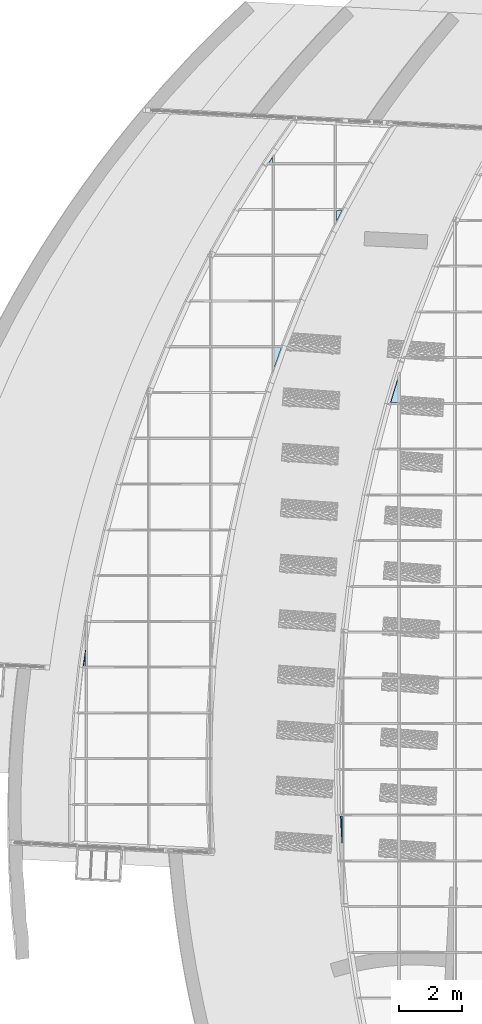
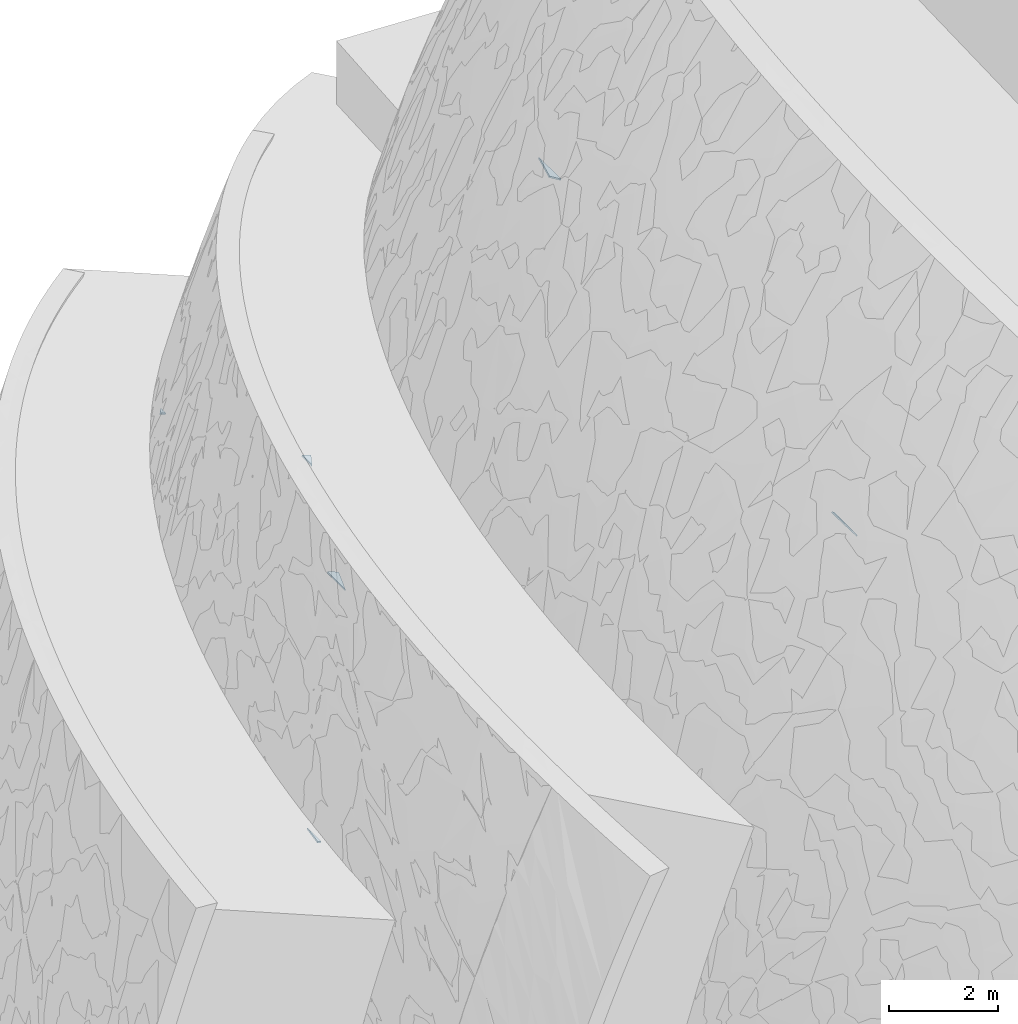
# One storey, part 48 of 82: 6 plates, 2 elements without a shape of their own.
"""IFC2X3 building model written with IfcOpenShell, lengths in millimetres."""

from ifc_helpers import new_model, entity, si_unit, converted_unit, derived_unit, direction, frame, origin, place, context, subcontext, project, spatial, polyline, outline, extrude, source, transform, mapped, material, layer, layer_set, layer_usage, type_object, type_shapes, element, aggregate, save


model = new_model("IFC2X3")

# Units and contexts
model_context = context("Model", 3, precision=0.01, world=origin(), true_north=direction((6.12303176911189e-17, 1.0)))
body_context = subcontext(model_context, "Body", "Model", "MODEL_VIEW")
ifc_project = project(units=[si_unit("LENGTHUNIT", "METRE", prefix="MILLI"), si_unit("AREAUNIT", "SQUARE_METRE"), si_unit("VOLUMEUNIT", "CUBIC_METRE"), converted_unit("PLANEANGLEUNIT", "DEGREE", entity("IfcRatioMeasure", 0.0174532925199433), si_unit("PLANEANGLEUNIT", "RADIAN"), dimensions=[0, 0, 0, 0, 0, 0, 0]), si_unit("MASSUNIT", "GRAM", prefix="KILO"), derived_unit("MASSDENSITYUNIT", [(si_unit("MASSUNIT", "GRAM", prefix="KILO"), 1), (si_unit("LENGTHUNIT", "METRE"), -3)]), si_unit("TIMEUNIT", "SECOND"), si_unit("FREQUENCYUNIT", "HERTZ"), si_unit("THERMODYNAMICTEMPERATUREUNIT", "DEGREE_CELSIUS"), derived_unit("THERMALTRANSMITTANCEUNIT", [(si_unit("MASSUNIT", "GRAM", prefix="KILO"), 1), (si_unit("THERMODYNAMICTEMPERATUREUNIT", "KELVIN"), -1), (si_unit("TIMEUNIT", "SECOND"), -3)]), derived_unit("VOLUMETRICFLOWRATEUNIT", [(si_unit("LENGTHUNIT", "METRE"), 3), (si_unit("TIMEUNIT", "SECOND"), -1)]), si_unit("ELECTRICCURRENTUNIT", "AMPERE"), si_unit("ELECTRICVOLTAGEUNIT", "VOLT"), si_unit("POWERUNIT", "WATT"), si_unit("FORCEUNIT", "NEWTON", prefix="KILO"), si_unit("ILLUMINANCEUNIT", "LUX"), si_unit("LUMINOUSFLUXUNIT", "LUMEN"), si_unit("LUMINOUSINTENSITYUNIT", "CANDELA"), derived_unit("USERDEFINED", [(si_unit("MASSUNIT", "GRAM", prefix="KILO"), -1), (si_unit("LENGTHUNIT", "METRE"), -2), (si_unit("TIMEUNIT", "SECOND"), 3), (si_unit("LUMINOUSFLUXUNIT", "LUMEN"), 1)]), derived_unit("LINEARVELOCITYUNIT", [(si_unit("LENGTHUNIT", "METRE"), 1), (si_unit("TIMEUNIT", "SECOND"), -1)]), si_unit("PRESSUREUNIT", "PASCAL"), derived_unit("USERDEFINED", [(si_unit("LENGTHUNIT", "METRE"), -2), (si_unit("MASSUNIT", "GRAM", prefix="KILO"), 1), (si_unit("TIMEUNIT", "SECOND"), -2)])], contexts=[model_context])

# Site, building, storey
site_placement = place(None, origin())
site = spatial("IfcSite", under=ifc_project, at=site_placement, Name="表面", CompositionType="ELEMENT")
building_placement = place(site_placement, origin())
building = spatial("IfcBuilding", under=site, at=building_placement, CompositionType="ELEMENT")
storey_placement = place(building_placement, origin())
storey = spatial("IfcBuildingStorey", under=building, at=storey_placement, Name="1F", CompositionType="ELEMENT", Elevation=0.0)

# Curtain wall, plates
curtain_wall_type = type_object("IfcCurtainWallType", Name="幕墙系统:1450 x 2100mm", PredefinedType="NOTDEFINED")
curtain_wall_1_placement = place(storey_placement, origin())
curtain_wall_1 = element("IfcCurtainWall", 1, at=curtain_wall_1_placement, inside=storey, type_object=curtain_wall_type, Name="幕墙系统:1450 x 2100mm", ObjectType="幕墙系统:1450 x 2100mm")
ifc_material = material(Name="<Unnamed>")
ifc_layer = layer(ifc_material, 30.0)
ifc_layer_set = layer_set([ifc_layer], Name="幕墙系统:1450 x 2100mm")
ifc_layer_usage_1 = layer_usage(ifc_layer_set, "AXIS3", "POSITIVE", 0.0)
plate_type_1 = type_object("IfcPlateType", Name="玻璃", PredefinedType="CURTAIN_PANEL", material=ifc_layer_set)
shared_shape_1 = source(origin(), body_context, "Body", "SweptSolid", [
    extrude(outline(polyline([(-542.636090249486, -91.1355855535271), (320.168450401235, -91.1355855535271), (222.467639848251, 182.271171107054), (-542.636090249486, -91.1355855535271)])), frame((135.414484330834, -15.0, 96.7796483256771), z_axis=(0.0, 1.0, 0.0), x_axis=(0.941681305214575, 0.0, 0.336506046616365)), (0.0, 0.0, 1.0), 30.0),
])
type_shapes(plate_type_1, [shared_shape_1])
plate_1_placement = place(curtain_wall_1_placement, frame((-28844.805825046, -5707.65970052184, 17720.4320530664), z_axis=(-0.848048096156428, 0.0, 0.529919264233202), x_axis=(0.0, -1.0, 0.0)))
plate_1 = element("IfcPlate", 2, at=plate_1_placement, type_object=plate_type_1, material=ifc_layer_usage_1, Name="系统嵌板:玻璃", ObjectType="玻璃", context=body_context, shape_type="MappedRepresentation", body=[
    mapped(shared_shape_1, transform((0.0, 0.0, 0.0), scale=1.0)),
])
ifc_layer_usage_2 = layer_usage(ifc_layer_set, "AXIS3", "POSITIVE", 0.0)
plate_type_2 = type_object("IfcPlateType", Name="玻璃", PredefinedType="CURTAIN_PANEL", material=ifc_layer_set)
shared_shape_2 = source(origin(), body_context, "Body", "SweptSolid", [
    extrude(outline(polyline([(-17.7569672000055, -284.696566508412), (35.5139344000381, -284.696566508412), (-17.7569672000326, 569.393133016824), (-17.7569672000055, -284.696566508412)])), frame((-142.348283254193, -15.0, 17.7569672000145), z_axis=(0.0, 1.0, 0.0), x_axis=(0.0, 0.0, 1.0)), (0.0, 0.0, 1.0), 30.0),
])
type_shapes(plate_type_2, [shared_shape_2])
plate_2_placement = place(curtain_wall_1_placement, frame((-30625.7068269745, -19640.948003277, 18833.2625079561), z_axis=(-0.848048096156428, 0.0, 0.529919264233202), x_axis=(0.0, -1.0, 0.0)))
plate_2 = element("IfcPlate", 3, at=plate_2_placement, type_object=plate_type_2, material=ifc_layer_usage_2, Name="系统嵌板:玻璃", ObjectType="玻璃", context=body_context, shape_type="MappedRepresentation", body=[
    mapped(shared_shape_2, transform((0.0, 0.0, 0.0), scale=1.0)),
])
aggregate(curtain_wall_1, [plate_1, plate_2])

curtain_wall_2_placement = place(storey_placement, origin())
curtain_wall_2 = element("IfcCurtainWall", 4, at=curtain_wall_2_placement, inside=storey, type_object=curtain_wall_type, Name="幕墙系统:1450 x 2100mm", ObjectType="幕墙系统:1450 x 2100mm")
ifc_layer_usage_3 = layer_usage(ifc_layer_set, "AXIS3", "POSITIVE", 0.0)
plate_type_3 = type_object("IfcPlateType", Name="玻璃", PredefinedType="CURTAIN_PANEL", material=ifc_layer_set)
shared_shape_3 = source(origin(), body_context, "Body", "SweptSolid", [
    extrude(outline(polyline([(-122.899234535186, -66.8844073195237), (245.798469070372, -66.8844073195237), (-122.899234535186, 133.768814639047), (-122.899234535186, -66.8844073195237)])), frame((-61.4496172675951, -15.0, 133.768814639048), z_axis=(0.0, 1.0, 0.0), x_axis=(1.0, 0.0, 0.0)), (0.0, 0.0, 1.0), 30.0),
])
type_shapes(plate_type_3, [shared_shape_3])
plate_3_placement = place(curtain_wall_2_placement, frame((-30624.5172416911, -206.225571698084, 8466.68098466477), z_axis=(-0.93969262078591, 0.0, 0.342020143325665), x_axis=(0.0, -1.0, 0.0)))
plate_3 = element("IfcPlate", 5, at=plate_3_placement, type_object=plate_type_3, material=ifc_layer_usage_3, Name="系统嵌板:玻璃", ObjectType="玻璃", context=body_context, shape_type="MappedRepresentation", body=[
    mapped(shared_shape_3, transform((0.0, 0.0, 0.0), scale=1.0)),
])
ifc_layer_usage_4 = layer_usage(ifc_layer_set, "AXIS3", "POSITIVE", 0.0)
plate_type_4 = type_object("IfcPlateType", Name="玻璃", PredefinedType="CURTAIN_PANEL", material=ifc_layer_set)
shared_shape_4 = source(origin(), body_context, "Body", "SweptSolid", [
    extrude(outline(polyline([(-220.140395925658, -82.7521589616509), (440.280791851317, -82.752158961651), (-220.140395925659, 165.504317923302), (-220.140395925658, -82.7521589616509)])), frame((-110.070197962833, -15.0, 165.504317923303), z_axis=(0.0, 1.0, 0.0), x_axis=(1.0, 0.0, 0.0)), (0.0, 0.0, 1.0), 30.0),
])
type_shapes(plate_type_4, [shared_shape_4])
plate_4_placement = place(curtain_wall_2_placement, frame((-32553.1393179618, -4702.08731378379, 9168.64201357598), z_axis=(-0.93969262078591, 0.0, 0.342020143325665), x_axis=(0.0, -1.0, 0.0)))
plate_4 = element("IfcPlate", 6, at=plate_4_placement, type_object=plate_type_4, material=ifc_layer_usage_4, Name="系统嵌板:玻璃", ObjectType="玻璃", context=body_context, shape_type="MappedRepresentation", body=[
    mapped(shared_shape_4, transform((0.0, 0.0, 0.0), scale=1.0)),
])
ifc_layer_usage_5 = layer_usage(ifc_layer_set, "AXIS3", "POSITIVE", 0.0)
plate_type_5 = type_object("IfcPlateType", Name="玻璃", PredefinedType="CURTAIN_PANEL", material=ifc_layer_set)
shared_shape_5 = source(origin(), body_context, "Body", "SweptSolid", [
    extrude(outline(polyline([(-125.68883282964, -35.5896478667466), (100.662897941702, -35.5896478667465), (25.0259348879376, 71.1792957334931), (-125.68883282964, -35.5896478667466)])), frame((30.7835402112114, -15.0, 43.6151827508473), z_axis=(0.0, 1.0, 0.0), x_axis=(0.81599217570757, 0.0, 0.578062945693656)), (0.0, 0.0, 1.0), 30.0),
])
type_shapes(plate_type_5, [shared_shape_5])
plate_5_placement = place(curtain_wall_2_placement, frame((-32833.4087283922, 1570.47390073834, 9270.65173654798), z_axis=(-0.93969262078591, 0.0, 0.342020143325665), x_axis=(0.0, -1.0, 0.0)))
plate_5 = element("IfcPlate", 7, at=plate_5_placement, type_object=plate_type_5, material=ifc_layer_usage_5, Name="系统嵌板:玻璃", ObjectType="玻璃", context=body_context, shape_type="MappedRepresentation", body=[
    mapped(shared_shape_5, transform((0.0, 0.0, 0.0), scale=1.0)),
])
ifc_layer_usage_6 = layer_usage(ifc_layer_set, "AXIS3", "POSITIVE", 0.0)
plate_type_6 = type_object("IfcPlateType", Name="玻璃", PredefinedType="CURTAIN_PANEL", material=ifc_layer_set)
shared_shape_6 = source(origin(), body_context, "Body", "SweptSolid", [
    extrude(outline(polyline([(-337.05378152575, -25.8380733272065), (174.54055276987, -25.8380733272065), (162.51322875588, 51.676146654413), (-337.05378152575, -25.8380733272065)])), frame((84.2574843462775, -15.0, 26.1472556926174), z_axis=(0.0, 1.0, 0.0), x_axis=(0.988175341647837, 0.0, 0.153328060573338)), (0.0, 0.0, 1.0), 30.0),
])
type_shapes(plate_type_6, [shared_shape_6])
plate_6_placement = place(curtain_wall_2_placement, frame((-38753.4722393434, -14219.1042668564, 11425.3786394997), z_axis=(-0.93969262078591, 0.0, 0.342020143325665), x_axis=(0.0, -1.0, 0.0)))
plate_6 = element("IfcPlate", 8, at=plate_6_placement, type_object=plate_type_6, material=ifc_layer_usage_6, Name="系统嵌板:玻璃", ObjectType="玻璃", context=body_context, shape_type="MappedRepresentation", body=[
    mapped(shared_shape_6, transform((0.0, 0.0, 0.0), scale=1.0)),
])
aggregate(curtain_wall_2, [plate_3, plate_4, plate_5, plate_6])

save(model, "model.ifc")
